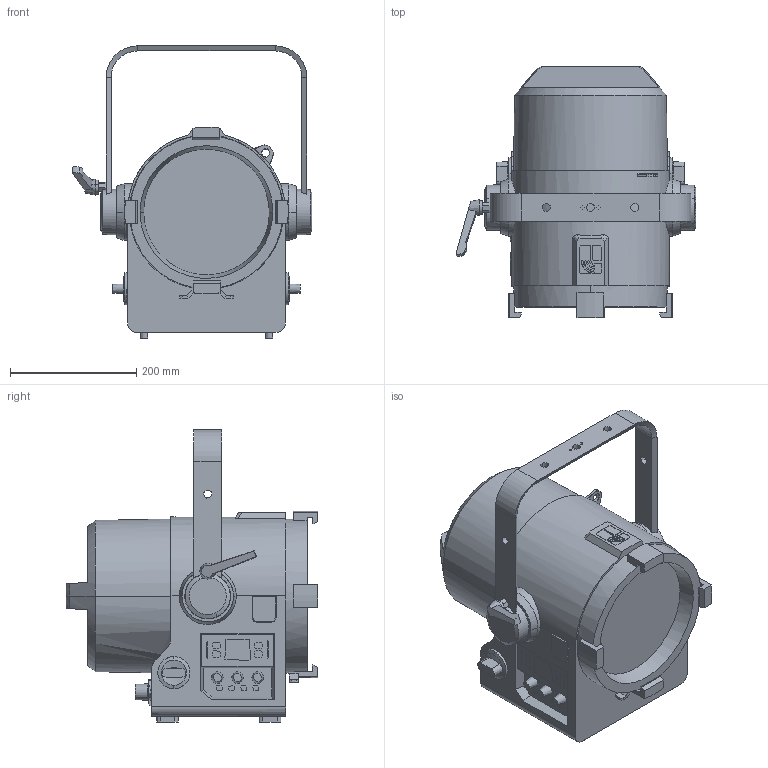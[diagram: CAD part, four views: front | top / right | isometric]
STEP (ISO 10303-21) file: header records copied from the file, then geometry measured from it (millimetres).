
FILE_DESCRIPTION(/* description */ (''),/* implementation_level */ '2;1');
FILE_NAME(/* name */ 'ROXX_ICON_F8_step',/* time_stamp */ '2025-12-17T10:47:13+01:00',/* author */ (''),/* organization */ (''),/* preprocessor_version */ 'ST-DEVELOPER v16.5',/* originating_system */ 'Rhino 7.38',/* authorisation */ '');
FILE_SCHEMA (('CONFIG_CONTROL_DESIGN'));
Length unit declared in the file: millimetre
Products named in the file (1): Document
Bounding box: 379.85 x 398.18 x 462.5 mm (x, y, z)
Volume: 21126416.4 mm3; surface area: 628939.3 mm2
Topology: 1 solids, 4 shells, 478 faces, 1268 edges, 829 vertices
Faces by surface type: plane 266, cylinder 119, bspline 93
Entity records: 14850 total; most frequent: CARTESIAN_POINT 6739, ORIENTED_EDGE 2517, EDGE_CURVE 1263, VERTEX_POINT 827, B_SPLINE_CURVE_WITH_KNOTS 721, EDGE_LOOP 532, ADVANCED_FACE 478, FACE_OUTER_BOUND 478
